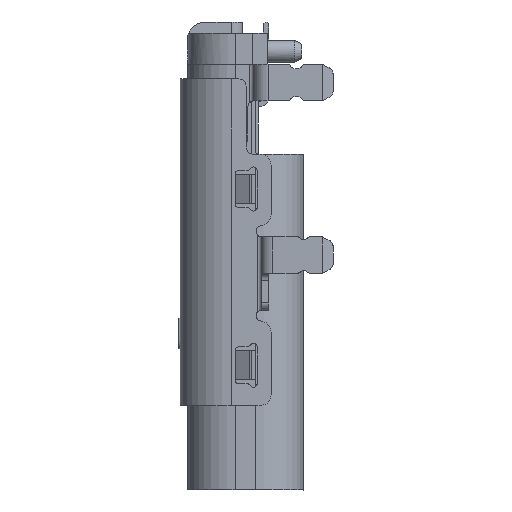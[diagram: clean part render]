
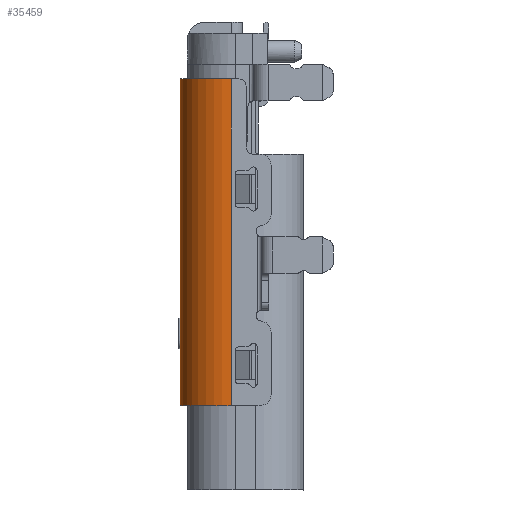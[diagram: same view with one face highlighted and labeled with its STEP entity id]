
A CAD part, left-side view. The second image highlights one B-rep face of the part: STEP entity #35459.
In plain terms, the highlighted cylindrical face has radius 1.4 mm (diameter 2.8 mm), a partial arc.
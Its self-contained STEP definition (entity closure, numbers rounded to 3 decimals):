
#1105 = DIRECTION ( 'NONE',  ( 0., 1., 0. ) ) ;
#2438 = AXIS2_PLACEMENT_3D ( 'NONE', #33158, #59575, #38712 ) ;
#5476 = ORIENTED_EDGE ( 'NONE', *, *, #18992, .F. ) ;
#6404 = CARTESIAN_POINT ( 'NONE',  ( -4.7, 0.38, 10.15 ) ) ;
#7089 = DIRECTION ( 'NONE',  ( 0., 0., -1. ) ) ;
#7821 = VERTEX_POINT ( 'NONE', #46560 ) ;
#10171 = CARTESIAN_POINT ( 'NONE',  ( -3.3, 1.78, 1.25 ) ) ;
#14384 = FACE_OUTER_BOUND ( 'NONE', #22834, .T. ) ;
#14560 = VERTEX_POINT ( 'NONE', #44497 ) ;
#15405 = DIRECTION ( 'NONE',  ( 0., -1., 0. ) ) ;
#15923 = CIRCLE ( 'NONE', #42553, 1.4 ) ;
#18992 = EDGE_CURVE ( 'NONE', #14560, #49633, #52889, .T. ) ;
#21206 = VECTOR ( 'NONE', #7089, 1000. ) ;
#21401 = EDGE_CURVE ( 'NONE', #40847, #7821, #32818, .T. ) ;
#22834 = EDGE_LOOP ( 'NONE', ( #26586, #45406, #31699, #5476 ) ) ;
#26586 = ORIENTED_EDGE ( 'NONE', *, *, #32714, .T. ) ;
#31536 = EDGE_CURVE ( 'NONE', #40847, #49633, #32397, .T. ) ;
#31699 = ORIENTED_EDGE ( 'NONE', *, *, #31536, .T. ) ;
#32388 = CARTESIAN_POINT ( 'NONE',  ( -3.3, 0.38, 1.25 ) ) ;
#32397 = CIRCLE ( 'NONE', #2438, 1.4 ) ;
#32714 = EDGE_CURVE ( 'NONE', #14560, #7821, #15923, .T. ) ;
#32818 = LINE ( 'NONE', #6404, #21206 ) ;
#33158 = CARTESIAN_POINT ( 'NONE',  ( -3.3, 0.38, 10.15 ) ) ;
#35459 = ADVANCED_FACE ( 'NONE', ( #14384 ), #51210, .T. ) ;
#35536 = DIRECTION ( 'NONE',  ( 0., 0., 1. ) ) ;
#38712 = DIRECTION ( 'NONE',  ( -1., 0., 0. ) ) ;
#39451 = CARTESIAN_POINT ( 'NONE',  ( -3.3, 1.78, 10.15 ) ) ;
#40847 = VERTEX_POINT ( 'NONE', #66921 ) ;
#41793 = CARTESIAN_POINT ( 'NONE',  ( -3.3, 0.38, 10.328 ) ) ;
#42553 = AXIS2_PLACEMENT_3D ( 'NONE', #32388, #48706, #1105 ) ;
#44286 = VECTOR ( 'NONE', #35536, 1000. ) ;
#44497 = CARTESIAN_POINT ( 'NONE',  ( -3.3, 1.78, 1.25 ) ) ;
#45406 = ORIENTED_EDGE ( 'NONE', *, *, #21401, .F. ) ;
#46029 = AXIS2_PLACEMENT_3D ( 'NONE', #41793, #63010, #15405 ) ;
#46560 = CARTESIAN_POINT ( 'NONE',  ( -4.7, 0.38, 1.25 ) ) ;
#48706 = DIRECTION ( 'NONE',  ( 0., 0., 1. ) ) ;
#49633 = VERTEX_POINT ( 'NONE', #39451 ) ;
#51210 = CYLINDRICAL_SURFACE ( 'NONE', #46029, 1.4 ) ;
#52889 = LINE ( 'NONE', #10171, #44286 ) ;
#59575 = DIRECTION ( 'NONE',  ( 0., 0., -1. ) ) ;
#63010 = DIRECTION ( 'NONE',  ( 0., 0., -1. ) ) ;
#66921 = CARTESIAN_POINT ( 'NONE',  ( -4.7, 0.38, 10.15 ) ) ;
